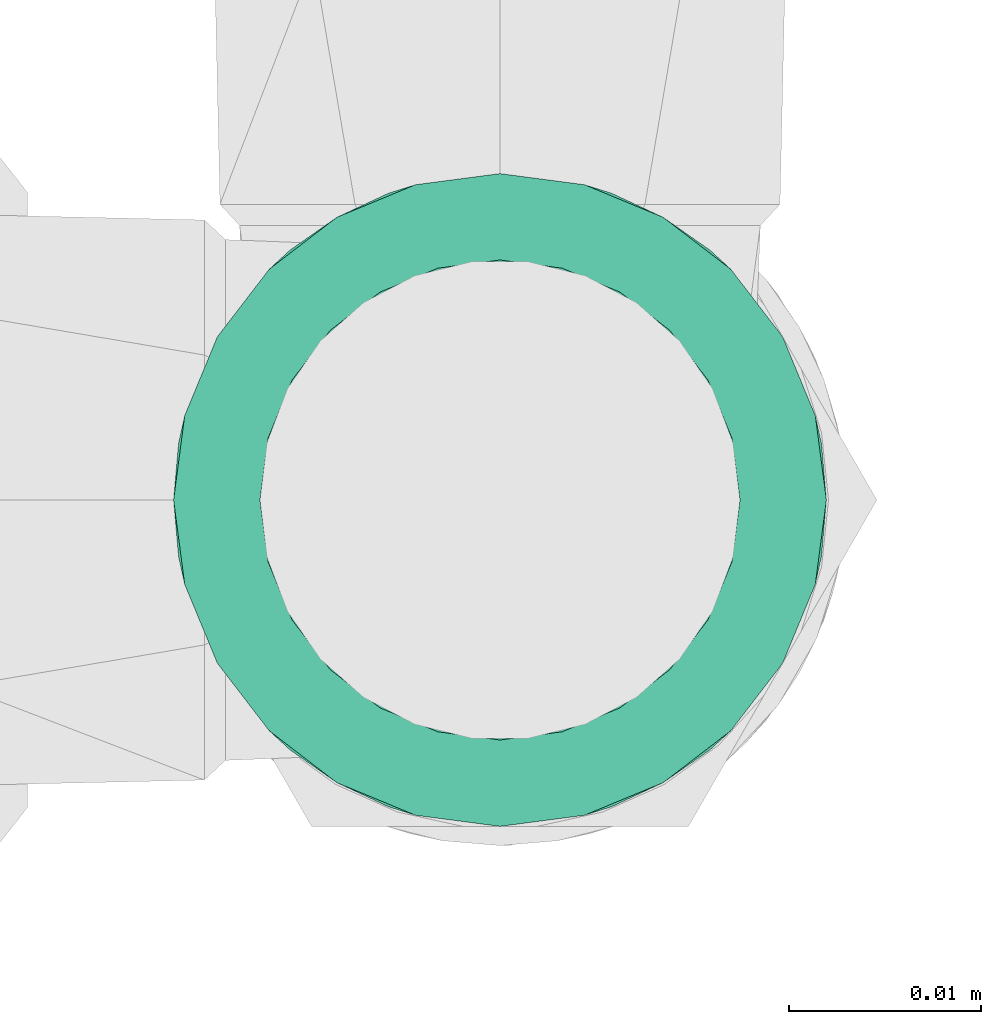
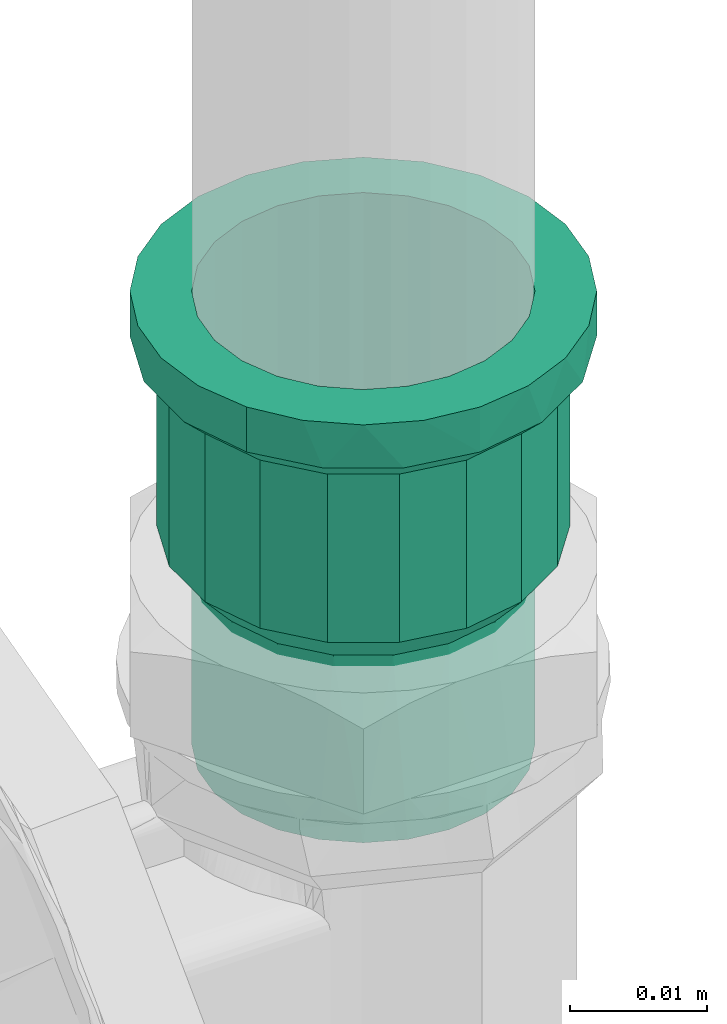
# One storey, part 324 of 589: 1 flow fitting.
"""IFC2X3 building model written with IfcOpenShell, lengths in millimetres."""

import ifcopenshell
import ifcopenshell.guid

model = None  # the IFC model being written
_history = None  # IfcOwnerHistory: only IFC2X3 demands one
_inside = {}  # id of a spatial element -> (the spatial element, [elements in it])
_under = {}  # id of a project, library or spatial element -> (it, [spatial elements below it])
_declared = {}  # id of a project -> (the project, [libraries it declares])
_typed = {}  # id of a type object -> (the type object, [elements of that type])
_made_of = {}  # id of a material, layer set ... -> (it, [elements and type objects made of it])


def new_model(schema):
    """Start an empty IFC model of exactly this schema.

    Asked for "IFC4X3", IfcOpenShell would pick the latest addendum, in which some entities
    have other attributes; the version numbers below select the first issue.
    IFC2X3 requires an IfcOwnerHistory on every rooted entity: one is made here for all.
    """
    global model, _history
    if schema == "IFC4X3":
        model = ifcopenshell.file(schema_version=(4, 3, 0, 0))
    else:
        model = ifcopenshell.file(schema=schema)
    _inside.clear()
    _under.clear()
    _declared.clear()
    _typed.clear()
    _made_of.clear()
    _history = None
    if model.schema == "IFC2X3":
        org = make("IfcOrganization", Name="unknown")
        user = make(
            "IfcPersonAndOrganization",
            ThePerson=make("IfcPerson", FamilyName="unknown"),
            TheOrganization=org,
        )
        app = make(
            "IfcApplication",
            ApplicationDeveloper=org,
            Version="unknown",
            ApplicationFullName="unknown",
            ApplicationIdentifier="unknown",
        )
        _history = make(
            "IfcOwnerHistory",
            OwningUser=user,
            OwningApplication=app,
            ChangeAction="ADDED",
            CreationDate=0,
        )
    return model


def make(cls, **values):
    """One entity of the class cls with the attributes given. An attribute that is None is left unset."""
    return model.create_entity(
        cls, **{name: value for name, value in values.items() if value is not None}
    )


def entity(cls, *values):
    """Any entity or typed value of the class cls, its attributes in the order of the schema. None: left unset."""
    e = model.create_entity(cls)
    for i, value in enumerate(values):
        if value is not None:
            e[i] = value
    return e


def rooted(cls, **values):
    """An entity with a GlobalId (a new one), such as an element, a storey or a relation."""
    return make(cls, GlobalId=ifcopenshell.guid.new(), OwnerHistory=_history, **values)


def si_unit(unit_type, name, prefix=None):
    """IfcSIUnit, for example si_unit("LENGTHUNIT", "METRE", prefix="MILLI")."""
    return make("IfcSIUnit", UnitType=unit_type, Prefix=prefix, Name=name)


def converted_unit(unit_type, name, factor, base, dimensions=None, offset=None):
    """IfcConversionBasedUnit, such as the inch: factor (a typed value) times the base unit."""
    return make(
        "IfcConversionBasedUnit"
        if offset is None
        else "IfcConversionBasedUnitWithOffset",
        ConversionOffset=offset,
        Dimensions=None
        if dimensions is None
        else entity("IfcDimensionalExponents", *dimensions),
        UnitType=unit_type,
        Name=name,
        ConversionFactor=make(
            "IfcMeasureWithUnit", ValueComponent=factor, UnitComponent=base
        ),
    )


def derived_unit(unit_type, elements):
    """IfcDerivedUnit: a product of units, each with its exponent."""
    return make(
        "IfcDerivedUnit",
        Elements=[
            make("IfcDerivedUnitElement", Unit=unit, Exponent=power)
            for unit, power in elements
        ],
        UnitType=unit_type,
    )


def assignment(units):
    """IfcUnitAssignment: the units of a project."""
    return None if units is None else make("IfcUnitAssignment", Units=units)


def point(xyz):
    """IfcCartesianPoint."""
    return None if xyz is None else make("IfcCartesianPoint", Coordinates=xyz)


def direction(xyz):
    """IfcDirection."""
    return None if xyz is None else make("IfcDirection", DirectionRatios=xyz)


def frame(location, z_axis=None, x_axis=None):
    """IfcAxis2Placement3D, a coordinate frame: its origin and axes. An axis left out is left unset."""
    return make(
        "IfcAxis2Placement3D",
        Location=point(location),
        Axis=direction(z_axis),
        RefDirection=direction(x_axis),
    )


def origin():
    """The frame at (0, 0, 0) with its axes left unset."""
    return frame((0.0, 0.0, 0.0))


def place(relative_to, where):
    """IfcLocalPlacement: puts the frame where relative to a parent placement (None: the world)."""
    return make(
        "IfcLocalPlacement", PlacementRelTo=relative_to, RelativePlacement=where
    )


def context(
    kind, dimensions, precision=None, world=None, true_north=None, identifier=None
):
    """IfcGeometricRepresentationContext, for example the 3D "Model" context."""
    return make(
        "IfcGeometricRepresentationContext",
        ContextIdentifier=identifier,
        ContextType=kind,
        CoordinateSpaceDimension=dimensions,
        Precision=precision,
        WorldCoordinateSystem=world,
        TrueNorth=true_north,
    )


def subcontext(parent, identifier, kind, view, scale=None):
    """IfcGeometricRepresentationSubContext, for example "Body" below "Model"."""
    return make(
        "IfcGeometricRepresentationSubContext",
        ContextIdentifier=identifier,
        ContextType=kind,
        ParentContext=parent,
        TargetScale=scale,
        TargetView=view,
    )


def project(units=None, contexts=None):
    """IfcProject with its units and contexts."""
    return rooted(
        "IfcProject",
        Name="project",
        RepresentationContexts=contexts,
        UnitsInContext=assignment(units),
    )


def spatial(cls, under=None, at=None, **own):
    """A site, building, storey or space (cls), placed at a placement, below another one or the project."""
    s = rooted(cls, ObjectPlacement=at, **own)
    if under is not None:
        _under.setdefault(under.id(), (under, []))[1].append(s)
    return s


def faces_of(points, faces, orient=None, outer=None):
    """IfcFace entities. A face is a list of loops; a loop is a list of indices into points, from 0.

    orient and outer hold one flag for each loop. By default every Orientation is true, the
    first loop of a face is its IfcFaceOuterBound and the others are IfcFaceBound.
    """
    made = []
    for i, loops in enumerate(faces):
        bounds = []
        for j, loop in enumerate(loops):
            is_outer = j == 0 if outer is None else outer[i][j]
            bounds.append(
                make(
                    "IfcFaceOuterBound" if is_outer else "IfcFaceBound",
                    Bound=make("IfcPolyLoop", Polygon=[points[k] for k in loop]),
                    Orientation=True if orient is None else orient[i][j],
                )
            )
        made.append(make("IfcFace", Bounds=bounds))
    return made


def faceted_brep(points, faces, orient=None, outer=None, voids=None):
    """IfcFacetedBrep: a solid bounded by flat faces; with voids (closed shells), ...WithVoids."""
    shared = [point(p) for p in points]
    hull = make("IfcClosedShell", CfsFaces=faces_of(shared, faces, orient, outer))
    if voids is None:
        return make("IfcFacetedBrep", Outer=hull)
    return make(
        "IfcFacetedBrepWithVoids",
        Outer=hull,
        Voids=[
            make(cls, CfsFaces=faces_of(shared, fs, o, b)) for cls, fs, o, b in voids
        ],
    )


def shape(context_of_items, identifier, shape_type, items):
    """IfcShapeRepresentation: the items that make up one representation, for example the "Body"."""
    return make(
        "IfcShapeRepresentation",
        ContextOfItems=context_of_items,
        RepresentationIdentifier=identifier,
        RepresentationType=shape_type,
        Items=items,
    )


def source(mapping_origin, context_of_items, identifier, shape_type, items):
    """IfcRepresentationMap: a shape defined once, which mapped items show again and again."""
    return make(
        "IfcRepresentationMap",
        MappingOrigin=mapping_origin,
        MappedRepresentation=shape(context_of_items, identifier, shape_type, items),
    )


def transform(
    local_origin,
    x_axis=None,
    y_axis=None,
    z_axis=None,
    scale=None,
    scale2=None,
    scale3=None,
    uniform=True,
):
    """IfcCartesianTransformationOperator3D, or its non-uniform kind. x_axis, y_axis, z_axis: its Axis1, 2, 3."""
    if uniform:
        return make(
            "IfcCartesianTransformationOperator3D",
            Axis1=direction(x_axis),
            Axis2=direction(y_axis),
            LocalOrigin=point(local_origin),
            Scale=scale,
            Axis3=direction(z_axis),
        )
    return make(
        "IfcCartesianTransformationOperator3DnonUniform",
        Axis1=direction(x_axis),
        Axis2=direction(y_axis),
        LocalOrigin=point(local_origin),
        Scale=scale,
        Axis3=direction(z_axis),
        Scale2=scale2,
        Scale3=scale3,
    )


def mapped(mapping_source, mapping_target):
    """IfcMappedItem: shows the shape of a source again, moved by a transform."""
    return make(
        "IfcMappedItem", MappingSource=mapping_source, MappingTarget=mapping_target
    )


def material(Name=None, Category=None):
    """IfcMaterial."""
    return make("IfcMaterial", Name=Name, Category=Category)


def made_of(thing, what):
    """Note that an element or type object is made of a material, layer set ...; save() writes the relation."""
    if what is not None:
        _made_of.setdefault(what.id(), (what, []))[1].append(thing)
    return thing


def type_object(cls, material=None, **own):
    """A type object (cls), such as IfcWallType, which elements share."""
    return made_of(rooted(cls, **own), material)


def type_shapes(of_type, sources):
    """Give a type object the sources (RepresentationMaps) that its elements show as mapped items."""
    of_type.RepresentationMaps = sources


def element(
    cls,
    number,
    at=None,
    inside=None,
    cuts=None,
    type_object=None,
    material=None,
    context=None,
    identifier="Body",
    shape_type=None,
    held_by="IfcProductDefinitionShape",
    body=None,
    shapes=None,
    **own,
):
    """One element of the class cls, such as IfcWall. Its Tag is "e" and its number.

    at: its placement. inside: the storey or other place that contains it. cuts: it is an
    opening in that element (IfcRelVoidsElement). A single representation is given by context,
    identifier, shape_type and body (its items); several are given by shapes. held_by: the class
    of the entity that holds the representations. save() writes the other relations.
    """
    e = rooted(cls, Tag="e%d" % number, ObjectPlacement=at, **own)
    if body is not None:
        shapes = [shape(context, identifier, shape_type, body)]
    if shapes is not None:
        e.Representation = make(held_by, Representations=shapes)
    if inside is not None:
        _inside.setdefault(inside.id(), (inside, []))[1].append(e)
    if cuts is not None:
        rooted(
            "IfcRelVoidsElement", RelatingBuildingElement=cuts, RelatedOpeningElement=e
        )
    if type_object is not None:
        _typed.setdefault(type_object.id(), (type_object, []))[1].append(e)
    return made_of(e, material)


def aggregate(whole, parts):
    """IfcRelAggregates: a whole, such as a stair, and the parts it consists of."""
    return rooted("IfcRelAggregates", RelatingObject=whole, RelatedObjects=parts)


def save(model, path):
    """Write the relations noted so far, then the file.

    IfcRelAggregates (storeys below a building ...), IfcRelContainedInSpatialStructure (elements
    in a storey), IfcRelDefinesByType, IfcRelAssociatesMaterial and IfcRelDeclares: one each for
    every whole, place, type object, material and project.
    """
    for whole, parts in _under.values():
        aggregate(whole, parts)
    for where, things in _inside.values():
        rooted(
            "IfcRelContainedInSpatialStructure",
            RelatedElements=things,
            RelatingStructure=where,
        )
    for kind, things in _typed.values():
        rooted("IfcRelDefinesByType", RelatedObjects=things, RelatingType=kind)
    for what, things in _made_of.values():
        rooted("IfcRelAssociatesMaterial", RelatedObjects=things, RelatingMaterial=what)
    for by, libraries in _declared.values():
        rooted("IfcRelDeclares", RelatingContext=by, RelatedDefinitions=libraries)
    model.write(path)


model = new_model("IFC2X3")

# Units and contexts
model_context = context("Model", 3, precision=0.01, world=origin(), true_north=direction((6.123031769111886e-17, 1.0)))
body_context = subcontext(model_context, "Body", "Model", "MODEL_VIEW")
ifc_project = project(units=[si_unit("LENGTHUNIT", "METRE", prefix="MILLI"), si_unit("AREAUNIT", "SQUARE_METRE"), si_unit("VOLUMEUNIT", "CUBIC_METRE"), converted_unit("PLANEANGLEUNIT", "DEGREE", entity("IfcRatioMeasure", 0.017453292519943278), si_unit("PLANEANGLEUNIT", "RADIAN"), dimensions=[0, 0, 0, 0, 0, 0, 0]), si_unit("MASSUNIT", "GRAM", prefix="KILO"), derived_unit("MASSDENSITYUNIT", [(si_unit("MASSUNIT", "GRAM", prefix="KILO"), 1), (si_unit("LENGTHUNIT", "METRE"), -3)]), derived_unit("IONCONCENTRATIONUNIT", [(si_unit("MASSUNIT", "GRAM", prefix="KILO"), 1), (si_unit("LENGTHUNIT", "METRE"), -3)]), derived_unit("MOMENTOFINERTIAUNIT", [(si_unit("LENGTHUNIT", "METRE"), 4)]), si_unit("TIMEUNIT", "SECOND"), si_unit("FREQUENCYUNIT", "HERTZ"), si_unit("THERMODYNAMICTEMPERATUREUNIT", "DEGREE_CELSIUS"), derived_unit("THERMALTRANSMITTANCEUNIT", [(si_unit("MASSUNIT", "GRAM", prefix="KILO"), 1), (si_unit("THERMODYNAMICTEMPERATUREUNIT", "KELVIN"), -1), (si_unit("TIMEUNIT", "SECOND"), -3)]), derived_unit("THERMALCONDUCTANCEUNIT", [(si_unit("MASSUNIT", "GRAM", prefix="KILO"), 1), (si_unit("THERMODYNAMICTEMPERATUREUNIT", "KELVIN"), -1), (si_unit("TIMEUNIT", "SECOND"), -3), (si_unit("LENGTHUNIT", "METRE"), 1)]), derived_unit("VOLUMETRICFLOWRATEUNIT", [(si_unit("LENGTHUNIT", "METRE"), 3), (si_unit("TIMEUNIT", "SECOND"), -1)]), derived_unit("MASSFLOWRATEUNIT", [(si_unit("MASSUNIT", "GRAM", prefix="KILO"), 1), (si_unit("TIMEUNIT", "SECOND"), -1)]), derived_unit("ROTATIONALFREQUENCYUNIT", [(si_unit("TIMEUNIT", "SECOND"), -1)]), si_unit("ELECTRICCURRENTUNIT", "AMPERE"), si_unit("ELECTRICVOLTAGEUNIT", "VOLT"), si_unit("POWERUNIT", "WATT"), si_unit("FORCEUNIT", "NEWTON", prefix="KILO"), si_unit("ILLUMINANCEUNIT", "LUX"), si_unit("LUMINOUSFLUXUNIT", "LUMEN"), si_unit("LUMINOUSINTENSITYUNIT", "CANDELA"), derived_unit("USERDEFINED", [(si_unit("MASSUNIT", "GRAM", prefix="KILO"), -1), (si_unit("LENGTHUNIT", "METRE"), -2), (si_unit("TIMEUNIT", "SECOND"), 3), (si_unit("LUMINOUSFLUXUNIT", "LUMEN"), 1)]), derived_unit("USERDEFINED", [(si_unit("MASSUNIT", "GRAM", prefix="KILO"), 1), (si_unit("TIMEUNIT", "SECOND"), -3), (si_unit("LENGTHUNIT", "METRE"), 3), (si_unit("ELECTRICCURRENTUNIT", "AMPERE"), -2)]), derived_unit("SOUNDPOWERUNIT", [(si_unit("MASSUNIT", "GRAM", prefix="KILO"), 1), (si_unit("TIMEUNIT", "SECOND"), -3), (si_unit("LENGTHUNIT", "METRE"), 2)]), derived_unit("SOUNDPRESSUREUNIT", [(si_unit("MASSUNIT", "GRAM", prefix="KILO"), 1), (si_unit("LENGTHUNIT", "METRE"), -1), (si_unit("TIMEUNIT", "SECOND"), -2)]), derived_unit("LINEARVELOCITYUNIT", [(si_unit("LENGTHUNIT", "METRE"), 1), (si_unit("TIMEUNIT", "SECOND"), -1)]), si_unit("PRESSUREUNIT", "PASCAL"), derived_unit("USERDEFINED", [(si_unit("MASSUNIT", "GRAM", prefix="KILO"), 1), (si_unit("LENGTHUNIT", "METRE"), -2), (si_unit("TIMEUNIT", "SECOND"), -2)]), derived_unit("LINEARFORCEUNIT", [(si_unit("MASSUNIT", "GRAM", prefix="KILO"), 1), (si_unit("TIMEUNIT", "SECOND"), -2)]), derived_unit("PLANARFORCEUNIT", [(si_unit("MASSUNIT", "GRAM", prefix="KILO"), 1), (si_unit("LENGTHUNIT", "METRE"), -1), (si_unit("TIMEUNIT", "SECOND"), -2)]), derived_unit("SPECIFICHEATCAPACITYUNIT", [(si_unit("THERMODYNAMICTEMPERATUREUNIT", "KELVIN"), -1), (si_unit("LENGTHUNIT", "METRE"), 2), (si_unit("TIMEUNIT", "SECOND"), -2)]), derived_unit("HEATINGVALUEUNIT", [(si_unit("LENGTHUNIT", "METRE"), 2), (si_unit("TIMEUNIT", "SECOND"), -2)]), derived_unit("VAPORPERMEABILITYUNIT", [(si_unit("LENGTHUNIT", "METRE"), -1), (si_unit("TIMEUNIT", "SECOND"), 1)]), derived_unit("DYNAMICVISCOSITYUNIT", [(si_unit("MASSUNIT", "GRAM", prefix="KILO"), 1), (si_unit("TIMEUNIT", "SECOND"), -1), (si_unit("LENGTHUNIT", "METRE"), -1)]), derived_unit("THERMALEXPANSIONCOEFFICIENTUNIT", [(si_unit("THERMODYNAMICTEMPERATUREUNIT", "KELVIN"), -1)]), derived_unit("MODULUSOFELASTICITYUNIT", [(si_unit("MASSUNIT", "GRAM", prefix="KILO"), 1), (si_unit("LENGTHUNIT", "METRE"), -1), (si_unit("TIMEUNIT", "SECOND"), -2)]), derived_unit("ISOTHERMALMOISTURECAPACITYUNIT", [(si_unit("LENGTHUNIT", "METRE"), 3), (si_unit("MASSUNIT", "GRAM", prefix="KILO"), -1)]), derived_unit("MOISTUREDIFFUSIVITYUNIT", [(si_unit("TIMEUNIT", "SECOND"), -1), (si_unit("LENGTHUNIT", "METRE"), 2)])], contexts=[model_context])

# Site, building, storey
site_placement = place(None, origin())
site = spatial("IfcSite", under=ifc_project, at=site_placement, Name="Default", CompositionType="ELEMENT")
building_placement = place(site_placement, origin())
building = spatial("IfcBuilding", under=site, at=building_placement, CompositionType="ELEMENT")
storey_placement = place(building_placement, frame((0.0, 0.0, 100.0)))
storey = spatial("IfcBuildingStorey", under=building, at=storey_placement, Name="TÉRREO", CompositionType="ELEMENT", Elevation=100.0)

# Flow fitting
ifc_material = material(Name="PVC Marrom")
pipe_fitting_type = type_object("IfcPipeFittingType", Name="PVC Marrom Soldável_Adaptador Curto com Bolsa e Rosca Aninhado_Rodrigo MEP:Adaptador", PredefinedType="NOTDEFINED", material=ifc_material)
shared_shape = source(origin(), body_context, "Body", "Brep", [
    faceted_brep([(0.0, 6.2499999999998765, -10.825317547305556), (0.0, 12.020815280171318, -12.0208152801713), (0.0, 8.500000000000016, -14.72243186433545), (0.0, 8.838834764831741, -8.83883476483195), (0.0, 3.2352380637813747, -12.07407282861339), (0.0, 14.722431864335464, -8.499999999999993), (0.0, 10.825317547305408, -6.250000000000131), (0.0, 12.074072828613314, -3.2352380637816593), (0.0, 16.42073904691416, -4.399923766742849), (0.0, 12.5, 0.0), (0.0, 17.0, 0.0), (0.0, 12.074072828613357, 3.2352380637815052), (0.0, 16.420739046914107, 4.399923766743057), (0.0, 10.825317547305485, 6.2499999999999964), (0.0, 14.722431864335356, 8.500000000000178), (0.0, 8.83883476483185, 8.838834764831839), (0.0, 12.020815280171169, 12.020815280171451), (0.0, 6.250000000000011, 10.82531754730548), (0.0, 8.499999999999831, 14.722431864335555), (0.0, 3.2352380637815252, 12.07407282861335), (0.0, 4.39992376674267, 16.42073904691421), (0.0, 0.0, 12.5), (0.0, 0.0, 17.0), (0.0, -3.2352380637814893, 12.07407282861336), (0.0, -4.399923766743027, 16.420739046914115), (0.0, -6.24999999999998, 10.825317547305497), (0.0, -8.500000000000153, 14.722431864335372), (0.0, -8.838834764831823, 8.838834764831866), (0.0, -12.020815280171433, 12.020815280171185), (0.0, -10.82531754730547, 6.250000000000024), (0.0, -14.722431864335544, 8.499999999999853), (0.0, -16.42073904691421, 4.399923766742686), (0.0, -12.074072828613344, 3.2352380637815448), (0.0, -17.0, 0.0), (0.0, -12.5, 0.0), (0.0, -16.42073904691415, -4.399923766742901), (0.0, -12.074072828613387, -3.235238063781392), (0.0, -14.722431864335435, -8.500000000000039), (0.0, -10.82531754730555, -6.249999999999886), (0.0, -12.02081528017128, -12.020815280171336), (0.0, -8.838834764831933, -8.838834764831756), (0.0, -8.499999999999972, -14.722431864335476), (0.0, -6.250000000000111, -10.825317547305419), (0.0, -4.399923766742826, -16.42073904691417), (0.0, -3.235238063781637, -12.074072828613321), (0.0, 0.0, -17.0), (0.0, 0.0, -12.5), (0.0, 4.399923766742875, -16.420739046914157), (4.0, -16.487306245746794, 2.907393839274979), (4.0, -15.974612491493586, 5.8147876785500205), (4.0, -13.022146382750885, 10.928115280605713), (4.0, -10.760457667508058, 12.825628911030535), (4.0, -14.498379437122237, 8.371451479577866), (4.0, -2.9501525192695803, 16.742060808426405), (4.0, -5.724460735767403, 15.732601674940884), (4.0, -17.0, 0.0), (4.0, -16.59968259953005, 2.27012779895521), (4.0, -8.498768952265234, 14.723142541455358), (4.0, 5.728407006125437, 15.731165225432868), (4.0, 8.502461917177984, 14.721010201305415), (4.0, 2.954352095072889, 16.74132024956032), (4.0, 10.763674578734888, 12.82292929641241), (4.0, 13.02488724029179, 10.924848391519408), (4.0, 15.976070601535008, 5.8107803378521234), (4.0, 17.0, 0.0), (4.0, 14.5004789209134, 8.367814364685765), (4.0, 0.002099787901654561, 16.741690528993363), (4.0, 15.97607060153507, -5.810780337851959), (4.0, 13.024887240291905, -10.92484839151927), (4.0, 10.763674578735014, -12.822929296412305), (4.0, 14.500478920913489, -8.367814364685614), (4.0, 2.9543520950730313, -16.741320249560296), (4.0, 5.728407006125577, -15.731165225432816), (4.0, 8.502461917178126, -14.721010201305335), (4.0, -16.487306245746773, -2.907393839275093), (4.0, -5.724460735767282, -15.732601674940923), (4.0, -8.498768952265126, -14.72314254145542), (4.0, -2.950152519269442, -16.74206080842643), (4.0, -10.760457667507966, -12.825628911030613), (4.0, -13.022146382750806, -10.928115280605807), (4.0, -15.974612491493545, -5.814787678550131), (4.0, -14.498379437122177, -8.371451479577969), (4.0, 0.002099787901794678, -16.741690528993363), (4.0, -16.599682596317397, -2.2701278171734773), (20.84999999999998, -14.142230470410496, 5.147797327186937), (5.900000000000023, -14.142230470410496, 5.147797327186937), (5.900000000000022, -14.59611523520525, 2.573898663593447), (5.900000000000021, -15.05, 0.0), (20.850000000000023, -15.05, 0.0), (20.85, -14.596115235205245, 2.573898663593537), (20.849999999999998, -14.535973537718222, 2.91495138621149), (20.84999999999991, -7.523910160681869, 13.034311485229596), (5.900000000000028, -7.523910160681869, 13.034311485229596), (5.900000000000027, -9.526169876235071, 11.354453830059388), (5.900000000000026, -11.528429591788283, 9.674596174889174), (20.84999999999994, -11.528429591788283, 9.674596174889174), (20.849999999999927, -9.52616987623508, 11.354453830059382), (5.900000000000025, -12.83533003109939, 7.411196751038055), (20.849999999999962, -12.835330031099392, 7.411196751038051), (5.900000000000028, -5.067831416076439, 13.927979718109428), (20.849999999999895, -5.067831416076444, 13.927979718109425), (20.849999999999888, -2.6117526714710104, 14.821647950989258), (5.900000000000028, -2.6117526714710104, 14.821647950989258), (5.900000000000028, 0.0018589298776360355, 14.8213201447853), (20.849999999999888, 0.0018589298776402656, 14.821320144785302), (20.849999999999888, 2.61547053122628, 14.820992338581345), (5.900000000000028, 2.615470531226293, 14.820992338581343), (20.849999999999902, 7.527179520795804, 13.032423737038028), (5.900000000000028, 7.527179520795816, 13.032423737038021), (5.900000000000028, 5.071325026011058, 13.92670803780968), (20.849999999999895, 5.0713250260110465, 13.926708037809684), (20.84999999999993, 11.530856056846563, 9.671704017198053), (5.900000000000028, 11.530856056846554, 9.671704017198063), (5.900000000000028, 9.52901778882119, 11.35206387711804), (20.849999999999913, 9.529017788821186, 11.352063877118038), (20.849999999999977, 14.143521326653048, 5.144249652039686), (5.900000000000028, 14.143521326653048, 5.144249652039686), (5.900000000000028, 12.837188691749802, 7.407976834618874), (20.849999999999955, 12.837188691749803, 7.407976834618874), (20.850000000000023, 15.05, 0.0), (5.900000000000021, 15.05, 0.0), (20.85000000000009, 14.143521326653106, -5.144249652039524), (5.900000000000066, 14.143521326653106, -5.144249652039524), (5.900000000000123, 7.527179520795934, -13.032423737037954), (5.900000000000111, 9.529017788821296, -11.352063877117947), (5.900000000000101, 11.530856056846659, -9.67170401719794), (20.85000000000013, 11.530856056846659, -9.67170401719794), (20.85000000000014, 9.529017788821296, -11.352063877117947), (20.850000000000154, 7.527179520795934, -13.032423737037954), (20.850000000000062, -14.142230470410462, -5.147797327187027), (5.900000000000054, -14.142230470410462, -5.147797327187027), (5.90000000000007, -12.835330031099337, -7.411196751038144), (5.900000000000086, -11.528429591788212, -9.67459617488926), (20.850000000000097, -11.528429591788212, -9.67459617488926), (20.850000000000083, -12.835330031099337, -7.411196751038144), (20.850000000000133, -7.523910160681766, -13.034311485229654), (5.900000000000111, -7.523910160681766, -13.034311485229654), (5.90000000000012, -5.067831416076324, -13.927979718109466), (5.900000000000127, -2.6117526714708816, -14.821647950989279), (20.850000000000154, -2.6117526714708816, -14.821647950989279), (20.85000000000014, -5.067831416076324, -13.927979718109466), (5.900000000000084, 12.837188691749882, -7.407976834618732), (20.850000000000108, 12.837188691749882, -7.40797683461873), (5.900000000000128, 5.071325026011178, -13.926708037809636), (20.850000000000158, 5.071325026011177, -13.926708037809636), (20.85000000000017, 2.6154705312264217, -14.82099233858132), (5.900000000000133, 2.6154705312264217, -14.82099233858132), (20.850000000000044, -14.535973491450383, -2.91495164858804), (20.85000000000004, -14.667751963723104, -2.1676596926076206), (5.900000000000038, -14.596115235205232, -2.573898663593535), (5.900000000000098, -9.526169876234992, -11.354453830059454), (20.850000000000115, -9.52616987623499, -11.354453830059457), (5.900000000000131, 0.0018589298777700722, -14.821320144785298), (20.850000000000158, 0.0018589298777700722, -14.821320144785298), (40.29999999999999, 3.2352380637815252, -12.07407282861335), (40.29999999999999, 6.250000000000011, -10.82531754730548), (40.29999999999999, 8.83883476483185, -8.838834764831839), (40.29999999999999, 10.825317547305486, -6.249999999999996), (40.29999999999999, 12.074072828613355, -3.2352380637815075), (40.29999999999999, 12.5, 0.0), (40.29999999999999, 12.074072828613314, 3.2352380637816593), (40.29999999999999, 10.825317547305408, 6.250000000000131), (40.29999999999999, 8.838834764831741, 8.83883476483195), (40.29999999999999, 6.2499999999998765, 10.825317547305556), (40.29999999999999, 3.2352380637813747, 12.07407282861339), (40.29999999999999, 0.0, 12.5), (40.29999999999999, -3.235238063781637, 12.074072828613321), (40.29999999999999, -6.250000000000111, 10.825317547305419), (40.29999999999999, -8.838834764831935, 8.838834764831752), (40.29999999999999, -10.825317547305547, 6.249999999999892), (40.29999999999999, -12.074072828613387, 3.235238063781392), (40.29999999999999, -12.5, 0.0), (40.29999999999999, -12.074072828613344, -3.2352380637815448), (40.29999999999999, -10.825317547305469, -6.2500000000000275), (40.29999999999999, -8.838834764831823, -8.838834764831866), (40.29999999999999, -6.24999999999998, -10.825317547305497), (40.29999999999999, -3.2352380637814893, -12.07407282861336), (40.29999999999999, 0.0, -12.5), (23.749999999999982, -12.5, 0.0), (23.74999999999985, -9.57510763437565, 8.035378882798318), (23.749999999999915, -11.746038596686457, 4.275579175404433), (23.749999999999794, -6.249094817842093, 10.825840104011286), (23.74999999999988, -10.660573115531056, 6.155479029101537), (23.74999999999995, -12.182518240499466, 1.8003818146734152), (23.74999999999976, -2.1692297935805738, 12.310338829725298), (23.74999999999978, -4.209162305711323, 11.56808946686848), (23.74999999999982, -7.912101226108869, 9.430609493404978), (23.749999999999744, 2.1723177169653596, 12.309794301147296), (23.749999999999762, 6.251810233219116, 10.824272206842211), (23.749999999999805, 9.577122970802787, 8.032976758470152), (23.749999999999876, 11.747110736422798, 4.272632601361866), (23.749999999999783, 7.9144666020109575, 9.428624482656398), (23.74999999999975, 4.212063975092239, 11.56703325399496), (23.749999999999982, 12.5, 0.0), (23.749999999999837, 10.662116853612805, 6.15280467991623), (23.74999999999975, 0.0015439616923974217, 12.31006656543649), (23.750000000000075, 9.577122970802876, -8.032976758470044), (23.75000000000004, 11.747110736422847, -4.272632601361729), (23.750000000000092, 6.2518102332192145, -10.824272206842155), (23.750000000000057, 10.662116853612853, -6.152804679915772), (23.7500000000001, 2.1723177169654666, -12.309794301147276), (23.7500000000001, 4.212063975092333, -11.56703325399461), (23.75000000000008, 7.914466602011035, -9.428624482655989), (23.750000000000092, -2.1692297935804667, -12.310338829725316), (23.750000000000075, -6.249094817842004, -10.82584010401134), (23.750000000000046, -9.575107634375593, -8.035378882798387), (23.750000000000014, -11.74603859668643, -4.275579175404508), (23.750000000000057, -7.912101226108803, -9.430609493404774), (23.75000000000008, -4.20916230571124, -11.56808946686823), (23.749999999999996, -12.123019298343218, -2.1377895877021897), (23.750000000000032, -10.660573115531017, -6.155479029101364), (23.7500000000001, 0.0015439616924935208, -12.310066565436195), (5.900000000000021, -12.5, 0.0), (20.850000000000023, -12.5, 0.0), (20.850000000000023, -12.07407282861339, -3.2352380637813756), (5.900000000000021, -12.07407282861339, -3.2352380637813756), (4.0, -12.07407282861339, -3.2352380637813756), (4.0, -12.5, 0.0), (20.850000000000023, -10.825317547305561, -6.249999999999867), (5.900000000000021, -10.825317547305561, -6.249999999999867), (4.0, -10.825317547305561, -6.249999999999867), (5.900000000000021, -6.250000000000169, -10.825317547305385), (4.0, -6.250000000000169, -10.825317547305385), (4.0, -8.838834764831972, -8.838834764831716), (5.900000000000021, -8.838834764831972, -8.838834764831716), (20.850000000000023, -8.838834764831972, -8.838834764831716), (20.850000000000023, -6.250000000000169, -10.825317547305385), (5.900000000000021, -3.235238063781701, -12.074072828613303), (4.0, -3.235238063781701, -12.074072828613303), (20.850000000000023, -3.235238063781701, -12.074072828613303), (20.850000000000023, 0.0, -12.5), (5.900000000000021, 0.0, -12.5), (4.0, 0.0, -12.5), (20.850000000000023, 3.2352380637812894, -12.074072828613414), (5.900000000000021, 3.2352380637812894, -12.074072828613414), (4.0, 3.2352380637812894, -12.074072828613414), (20.850000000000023, 6.24999999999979, -10.825317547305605), (5.900000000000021, 6.24999999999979, -10.825317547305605), (4.0, 6.24999999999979, -10.825317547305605), (5.900000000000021, 10.825317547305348, -6.250000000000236), (4.0, 10.825317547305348, -6.250000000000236), (4.0, 8.838834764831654, -8.838834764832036), (5.900000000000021, 8.838834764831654, -8.838834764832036), (20.850000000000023, 8.838834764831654, -8.838834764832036), (20.850000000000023, 10.825317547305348, -6.250000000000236), (5.900000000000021, 12.07407282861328, -3.2352380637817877), (4.0, 12.07407282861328, -3.2352380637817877), (20.850000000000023, 12.07407282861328, -3.2352380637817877), (20.850000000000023, 12.5, 0.0), (5.900000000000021, 12.5, 0.0), (4.0, 12.5, 0.0), (20.850000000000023, 12.074072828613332, 3.2352380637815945), (5.900000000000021, 12.074072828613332, 3.2352380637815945), (4.0, 12.074072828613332, 3.2352380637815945), (20.850000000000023, 10.82531754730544, 6.250000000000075), (5.900000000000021, 10.82531754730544, 6.250000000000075), (4.0, 10.82531754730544, 6.250000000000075), (5.900000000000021, 6.249999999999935, 10.825317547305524), (4.0, 6.249999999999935, 10.825317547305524), (4.0, 8.838834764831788, 8.838834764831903), (5.900000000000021, 8.838834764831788, 8.838834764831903), (20.850000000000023, 8.838834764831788, 8.838834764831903), (20.850000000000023, 6.249999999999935, 10.825317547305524), (5.900000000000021, 3.2352380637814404, 12.074072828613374), (4.0, 3.2352380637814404, 12.074072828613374), (20.850000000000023, 3.2352380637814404, 12.074072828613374), (20.850000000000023, 0.0, 12.5), (5.900000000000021, 0.0, 12.5), (4.0, 0.0, 12.5), (20.850000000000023, -3.2352380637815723, 12.074072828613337), (5.900000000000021, -3.2352380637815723, 12.074072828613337), (4.0, -3.2352380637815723, 12.074072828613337), (20.850000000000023, -6.250000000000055, 10.825317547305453), (5.900000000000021, -6.250000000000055, 10.825317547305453), (4.0, -6.250000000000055, 10.825317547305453), (5.900000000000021, -10.825317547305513, 6.249999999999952), (4.0, -10.825317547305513, 6.249999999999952), (4.0, -8.838834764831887, 8.838834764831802), (5.900000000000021, -8.838834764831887, 8.838834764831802), (20.850000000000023, -8.838834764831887, 8.838834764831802), (20.850000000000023, -10.825317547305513, 6.249999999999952), (5.900000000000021, -12.07407282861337, 3.2352380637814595), (4.0, -12.07407282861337, 3.2352380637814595), (20.850000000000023, -12.07407282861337, 3.2352380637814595)], [[[0, 1, 2]], [[3, 1, 0]], [[4, 0, 2]], [[1, 3, 5]], [[5, 3, 6]], [[5, 6, 7]], [[8, 5, 7]], [[9, 8, 7]], [[10, 8, 9]], [[10, 9, 11]], [[12, 10, 11]], [[12, 11, 13]], [[14, 12, 13]], [[14, 13, 15]], [[15, 16, 14]], [[15, 17, 16]], [[18, 16, 17]], [[19, 18, 17]], [[18, 19, 20]], [[21, 20, 19]], [[22, 20, 21]], [[21, 23, 22]], [[24, 22, 23]], [[25, 24, 23]], [[24, 25, 26]], [[25, 27, 26]], [[27, 28, 26]], [[28, 27, 29]], [[28, 29, 30]], [[30, 29, 31]], [[31, 29, 32]], [[33, 31, 32]], [[32, 34, 33]], [[33, 34, 35]], [[34, 36, 35]], [[37, 35, 36]], [[37, 36, 38]], [[39, 37, 38]], [[40, 39, 38]], [[40, 41, 39]], [[42, 41, 40]], [[43, 41, 42]], [[42, 44, 43]], [[43, 44, 45]], [[46, 45, 44]], [[46, 4, 47]], [[45, 46, 47]], [[2, 47, 4]], [[48, 49, 31]], [[28, 50, 51]], [[50, 30, 49, 52]], [[53, 24, 54]], [[30, 31, 49]], [[33, 55, 56, 48]], [[51, 57, 26]], [[51, 26, 28]], [[30, 50, 28]], [[58, 59, 18]], [[58, 18, 20]], [[26, 57, 54]], [[26, 54, 24]], [[22, 24, 53]], [[33, 48, 31]], [[20, 60, 58]], [[16, 61, 62]], [[12, 63, 64]], [[63, 14, 62, 65]], [[12, 64, 10]], [[18, 61, 16]], [[22, 53, 66, 60]], [[22, 60, 20]], [[14, 16, 62]], [[59, 61, 18]], [[14, 63, 12]], [[8, 64, 67]], [[1, 68, 69]], [[68, 5, 67, 70]], [[71, 47, 72]], [[5, 8, 67]], [[8, 10, 64]], [[2, 72, 47]], [[69, 73, 2]], [[5, 68, 1]], [[74, 33, 35]], [[75, 76, 41]], [[2, 73, 72]], [[75, 41, 43]], [[45, 47, 71]], [[69, 2, 1]], [[43, 77, 75]], [[39, 78, 79]], [[35, 80, 74]], [[80, 37, 79, 81]], [[37, 80, 35]], [[41, 78, 39]], [[45, 71, 82, 77]], [[45, 77, 43]], [[37, 39, 79]], [[76, 78, 41]], [[33, 74, 83, 55]], [[84, 85, 86, 87, 88, 89, 90]], [[91, 92, 93, 94, 95, 96]], [[97, 85, 84, 98, 95, 94]], [[99, 92, 91, 100, 101, 102]], [[103, 102, 101, 104, 105, 106]], [[107, 108, 109, 106, 105, 110]], [[111, 112, 113, 108, 107, 114]], [[115, 116, 117, 112, 111, 118]], [[115, 119, 120, 116]], [[120, 119, 121, 122]], [[123, 124, 125, 126, 127, 128]], [[129, 130, 131, 132, 133, 134]], [[135, 136, 137, 138, 139, 140]], [[141, 122, 121, 142, 126, 125]], [[143, 123, 128, 144, 145, 146]], [[147, 148, 88, 87, 149, 130, 129]], [[133, 132, 150, 136, 135, 151]], [[152, 146, 145, 153, 139, 138]], [[154, 155, 156, 157, 158, 159, 160, 161, 162, 163, 164, 165, 166, 167, 168, 169, 170, 171, 172, 173, 174, 175, 176, 177]], [[178, 171, 170]], [[179, 169, 168]], [[170, 169, 180]], [[168, 167, 181]], [[169, 179, 182, 180]], [[170, 180, 183, 178]], [[166, 184, 185, 181]], [[168, 181, 186, 179]], [[184, 166, 165]], [[181, 167, 166]], [[164, 187, 165]], [[163, 188, 164]], [[189, 162, 161]], [[163, 162, 188]], [[190, 161, 160]], [[162, 189, 191, 188]], [[164, 188, 192, 187]], [[160, 193, 190]], [[161, 190, 194, 189]], [[160, 159, 193]], [[165, 187, 195, 184]], [[193, 159, 158]], [[196, 157, 156]], [[158, 157, 197]], [[156, 155, 198]], [[157, 196, 199, 197]], [[197, 193, 158]], [[154, 200, 201, 198]], [[156, 198, 202, 196]], [[200, 154, 177]], [[198, 155, 154]], [[176, 203, 177]], [[175, 204, 176]], [[205, 174, 173]], [[175, 174, 204]], [[206, 173, 172]], [[174, 205, 207, 204]], [[176, 204, 208, 203]], [[172, 178, 209, 206]], [[173, 206, 210, 205]], [[172, 171, 178]], [[177, 203, 211, 200]], [[212, 213, 214, 215, 216, 36, 34, 217]], [[215, 214, 218, 219, 220, 38, 36, 216]], [[221, 222, 42, 40, 223, 224, 225, 226]], [[225, 224, 223, 40, 38, 220, 219, 218]], [[227, 228, 44, 42, 222, 221, 226, 229]], [[227, 229, 230, 231, 232, 46, 44, 228]], [[231, 230, 233, 234, 235, 4, 46, 232]], [[234, 233, 236, 237, 238, 0, 4, 235]], [[239, 240, 6, 3, 241, 242, 243, 244]], [[243, 242, 241, 3, 0, 238, 237, 236]], [[245, 246, 7, 6, 240, 239, 244, 247]], [[245, 247, 248, 249, 250, 9, 7, 246]], [[249, 248, 251, 252, 253, 11, 9, 250]], [[252, 251, 254, 255, 256, 13, 11, 253]], [[257, 258, 17, 15, 259, 260, 261, 262]], [[261, 260, 259, 15, 13, 256, 255, 254]], [[263, 264, 19, 17, 258, 257, 262, 265]], [[263, 265, 266, 267, 268, 21, 19, 264]], [[267, 266, 269, 270, 271, 23, 21, 268]], [[270, 269, 272, 273, 274, 25, 23, 271]], [[275, 276, 29, 27, 277, 278, 279, 280]], [[279, 278, 277, 27, 25, 274, 273, 272]], [[281, 282, 32, 29, 276, 275, 280, 283]], [[281, 283, 213, 212, 217, 34, 32, 282]], [[120, 122, 67, 64]], [[73, 123, 143, 146, 71, 72]], [[123, 73, 69, 68, 125, 124]], [[70, 67, 122, 141, 125, 68]], [[77, 138, 137, 136, 76, 75]], [[130, 80, 81, 79, 132, 131]], [[149, 87, 55, 83, 74, 80, 130]], [[82, 71, 146, 152, 138, 77]], [[78, 76, 136, 150, 132, 79]], [[49, 48, 56, 55, 87, 86, 85]], [[52, 49, 85, 97, 94, 50]], [[51, 50, 94, 93, 92, 57]], [[92, 99, 102, 53, 54, 57]], [[103, 106, 60, 66, 53, 102]], [[109, 108, 59, 58, 60, 106]], [[116, 120, 64, 63]], [[112, 117, 116, 63, 65, 62]], [[108, 113, 112, 62, 61, 59]], [[233, 230, 229, 226, 225, 218, 214, 213, 283, 280, 279, 272, 269, 266, 265, 262, 261, 254, 251, 248, 247, 244, 243, 236]], [[180, 84, 90, 89, 88, 178, 183]], [[184, 101, 100, 91, 181, 185]], [[96, 95, 179, 186, 181, 91]], [[98, 84, 180, 182, 179, 95]], [[101, 184, 195, 187, 105, 104]], [[190, 115, 118, 111, 189, 194]], [[105, 187, 192, 188, 107, 110]], [[190, 193, 119, 115]], [[114, 107, 188, 191, 189, 111]], [[193, 197, 121, 119]], [[128, 198, 201, 200, 145, 144]], [[198, 128, 127, 126, 196, 202]], [[142, 121, 197, 199, 196, 126]], [[139, 203, 208, 204, 135, 140]], [[206, 129, 134, 133, 205, 210]], [[209, 178, 88, 148, 147, 129, 206]], [[153, 145, 200, 211, 203, 139]], [[151, 135, 204, 207, 205, 133]]]),
])
type_shapes(pipe_fitting_type, [shared_shape])
flow_fitting_placement = place(storey_placement, frame((341.4423921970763, -7747.531283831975, 2274.7512082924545), z_axis=(-1.0, 0.0, 0.0), x_axis=(0.0, 0.0, -1.0)))
element("IfcFlowFitting", 1, at=flow_fitting_placement, inside=storey, type_object=pipe_fitting_type, material=ifc_material, Name="PVC Marrom Soldável_Adaptador Curto com Bolsa e Rosca Aninhado_Rodrigo MEP:Adaptador", ObjectType="PVC Marrom Soldável_Adaptador Curto com Bolsa e Rosca Aninhado_Rodrigo MEP:Adaptador", context=body_context, shape_type="MappedRepresentation", body=[
    mapped(shared_shape, transform((0.0, 0.0, 0.0), scale=1.0)),
])

save(model, "model.ifc")
